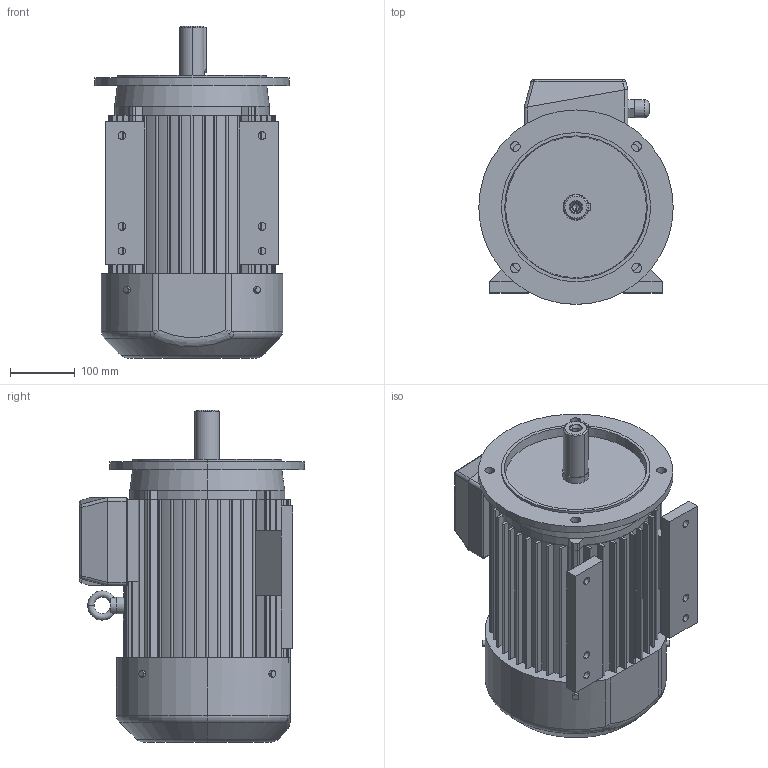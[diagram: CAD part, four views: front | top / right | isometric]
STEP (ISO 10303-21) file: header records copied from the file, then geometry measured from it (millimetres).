
FILE_DESCRIPTION (( 'STEP AP203' ), '1' );
FILE_NAME ('3SIEL132M.STEP', '2014-10-01T06:05:20', ( '' ), ( '' ), 'SwSTEP 2.0', 'SolidWorks 2003064', '' );
FILE_SCHEMA (( 'CONFIG_CONTROL_DESIGN' ));
Length unit declared in the file: millimetre
Products named in the file (1): 3SIEL132M
Bounding box: 300 x 347 x 512 mm (x, y, z)
Volume: 24038886.4 mm3; surface area: 1067479.8 mm2
Topology: 16 solids, 16 shells, 426 faces, 1105 edges, 708 vertices
Faces by surface type: cylinder 194, plane 191, torus 16, cone 16, bspline 5, sphere 4
Entity records: 16821 total; most frequent: CARTESIAN_POINT 6081, DIRECTION 2316, ORIENTED_EDGE 2194, EDGE_CURVE 1097, AXIS2_PLACEMENT_3D 842, VERTEX_POINT 708, LINE 632, VECTOR 632
